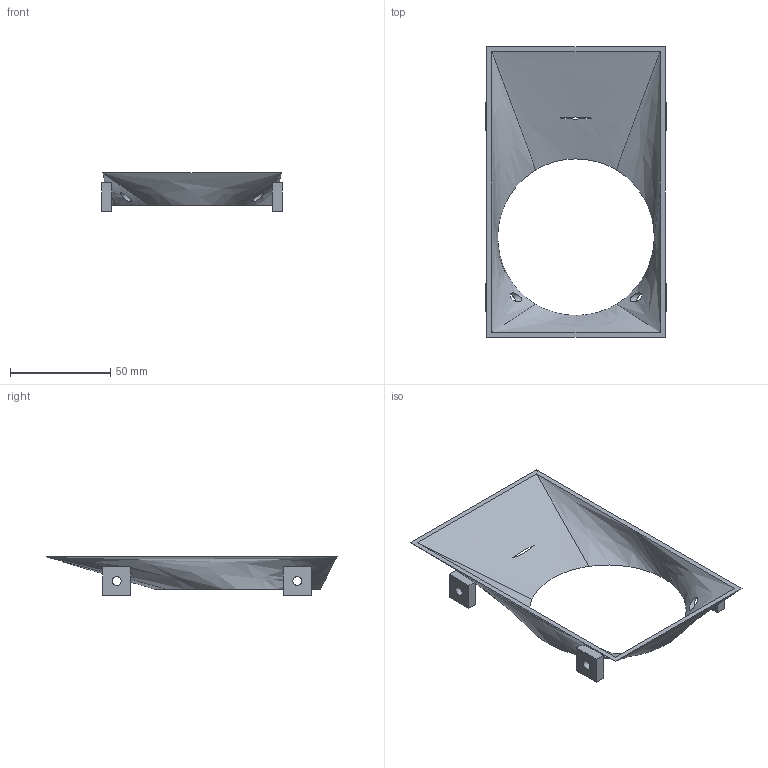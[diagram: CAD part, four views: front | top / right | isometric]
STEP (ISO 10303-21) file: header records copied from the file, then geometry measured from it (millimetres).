
FILE_DESCRIPTION(('Open CASCADE Model'),'2;1');
FILE_NAME('Open CASCADE Shape Model','2026-10-06T19:56:10',('Author'),( 'Open CASCADE'),'Open CASCADE STEP processor 7.9','Open CASCADE 7.9' ,'Unknown');
FILE_SCHEMA(('AUTOMOTIVE_DESIGN { 1 0 10303 214 1 1 1 1 }'));
Length unit declared in the file: millimetre
Products named in the file (1): Open CASCADE STEP translator 7.9 25
Bounding box: 90 x 145 x 19 mm (x, y, z)
Volume: 17756.2 mm3; surface area: 24322.3 mm2
Topology: 1 solids, 1 shells, 43 faces, 110 edges, 74 vertices
Faces by surface type: plane 26, bspline 10, cylinder 7
Full cylindrical faces by diameter (mm): 4.5 x6
Entity records: 6560 total; most frequent: CARTESIAN_POINT 4495, DIRECTION 304, ORIENTED_EDGE 220, PCURVE 220, DEFINITIONAL_REPRESENTATION 220, LINE 205, VECTOR 205, EDGE_CURVE 110
